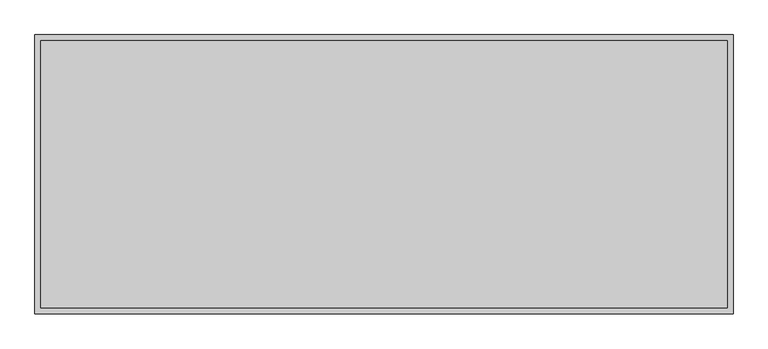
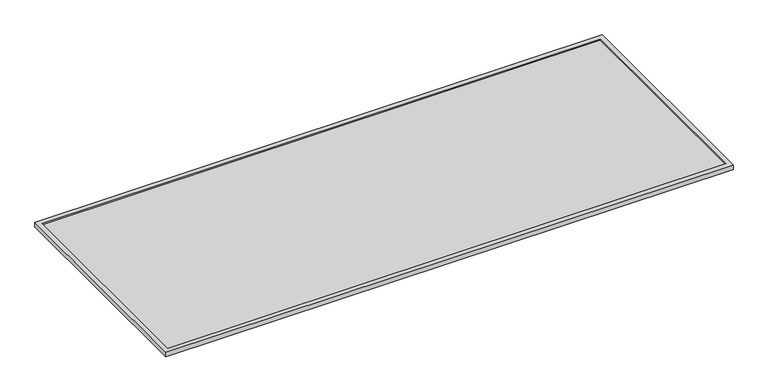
"""IFC4 building model written with IfcOpenShell, lengths in millimetres: proxy geometry, Bradley-Washroom_Accessories-Mirrors-780_Custom (3) : Bradley-Washroom_Accessories-Mirrors-780_Custom (3)."""

import ifcopenshell
import ifcopenshell.guid

model = None  # the IFC model being written
_history = None  # IfcOwnerHistory: only IFC2X3 demands one
_inside = {}  # id of a spatial element -> (the spatial element, [elements in it])
_under = {}  # id of a project, library or spatial element -> (it, [spatial elements below it])
_declared = {}  # id of a project -> (the project, [libraries it declares])
_typed = {}  # id of a type object -> (the type object, [elements of that type])
_made_of = {}  # id of a material, layer set ... -> (it, [elements and type objects made of it])


def new_model(schema):
    """Start an empty IFC model of exactly this schema.

    Asked for "IFC4X3", IfcOpenShell would pick the latest addendum, in which some entities
    have other attributes; the version numbers below select the first issue.
    IFC2X3 requires an IfcOwnerHistory on every rooted entity: one is made here for all.
    """
    global model, _history
    if schema == "IFC4X3":
        model = ifcopenshell.file(schema_version=(4, 3, 0, 0))
    else:
        model = ifcopenshell.file(schema=schema)
    _inside.clear()
    _under.clear()
    _declared.clear()
    _typed.clear()
    _made_of.clear()
    _history = None
    if model.schema == "IFC2X3":
        org = make("IfcOrganization", Name="unknown")
        user = make(
            "IfcPersonAndOrganization",
            ThePerson=make("IfcPerson", FamilyName="unknown"),
            TheOrganization=org,
        )
        app = make(
            "IfcApplication",
            ApplicationDeveloper=org,
            Version="unknown",
            ApplicationFullName="unknown",
            ApplicationIdentifier="unknown",
        )
        _history = make(
            "IfcOwnerHistory",
            OwningUser=user,
            OwningApplication=app,
            ChangeAction="ADDED",
            CreationDate=0,
        )
    return model


def make(cls, **values):
    """One entity of the class cls with the attributes given. An attribute that is None is left unset."""
    return model.create_entity(
        cls, **{name: value for name, value in values.items() if value is not None}
    )


def rooted(cls, **values):
    """An entity with a GlobalId (a new one), such as an element, a storey or a relation."""
    return make(cls, GlobalId=ifcopenshell.guid.new(), OwnerHistory=_history, **values)


def si_unit(unit_type, name, prefix=None):
    """IfcSIUnit, for example si_unit("LENGTHUNIT", "METRE", prefix="MILLI")."""
    return make("IfcSIUnit", UnitType=unit_type, Prefix=prefix, Name=name)


def assignment(units):
    """IfcUnitAssignment: the units of a project."""
    return None if units is None else make("IfcUnitAssignment", Units=units)


def point(xyz):
    """IfcCartesianPoint."""
    return None if xyz is None else make("IfcCartesianPoint", Coordinates=xyz)


def direction(xyz):
    """IfcDirection."""
    return None if xyz is None else make("IfcDirection", DirectionRatios=xyz)


def frame(location, z_axis=None, x_axis=None):
    """IfcAxis2Placement3D, a coordinate frame: its origin and axes. An axis left out is left unset."""
    return make(
        "IfcAxis2Placement3D",
        Location=point(location),
        Axis=direction(z_axis),
        RefDirection=direction(x_axis),
    )


def origin():
    """The frame at (0, 0, 0) with its axes left unset."""
    return frame((0.0, 0.0, 0.0))


def place(relative_to, where):
    """IfcLocalPlacement: puts the frame where relative to a parent placement (None: the world)."""
    return make(
        "IfcLocalPlacement", PlacementRelTo=relative_to, RelativePlacement=where
    )


def context(
    kind, dimensions, precision=None, world=None, true_north=None, identifier=None
):
    """IfcGeometricRepresentationContext, for example the 3D "Model" context."""
    return make(
        "IfcGeometricRepresentationContext",
        ContextIdentifier=identifier,
        ContextType=kind,
        CoordinateSpaceDimension=dimensions,
        Precision=precision,
        WorldCoordinateSystem=world,
        TrueNorth=true_north,
    )


def project(units=None, contexts=None):
    """IfcProject with its units and contexts."""
    return rooted(
        "IfcProject",
        Name="project",
        RepresentationContexts=contexts,
        UnitsInContext=assignment(units),
    )


def spatial(cls, under=None, at=None, **own):
    """A site, building, storey or space (cls), placed at a placement, below another one or the project."""
    s = rooted(cls, ObjectPlacement=at, **own)
    if under is not None:
        _under.setdefault(under.id(), (under, []))[1].append(s)
    return s


def polyline(points):
    """IfcPolyline through the points."""
    return make("IfcPolyline", Points=[point(p) for p in points])


def outline(outer, holes=None, kind="AREA"):
    """IfcArbitraryClosedProfileDef: a profile drawn as a closed curve; with holes, ...WithVoids."""
    if holes is None:
        return make("IfcArbitraryClosedProfileDef", ProfileType=kind, OuterCurve=outer)
    return make(
        "IfcArbitraryProfileDefWithVoids",
        ProfileType=kind,
        OuterCurve=outer,
        InnerCurves=holes,
    )


def extrude(swept, where, along, depth):
    """IfcExtrudedAreaSolid: the profile swept, set in the frame where, extruded along a direction by depth."""
    return make(
        "IfcExtrudedAreaSolid",
        SweptArea=swept,
        Position=where,
        ExtrudedDirection=direction(along),
        Depth=depth,
    )


def faces_of(points, faces, orient=None, outer=None):
    """IfcFace entities. A face is a list of loops; a loop is a list of indices into points, from 0.

    orient and outer hold one flag for each loop. By default every Orientation is true, the
    first loop of a face is its IfcFaceOuterBound and the others are IfcFaceBound.
    """
    made = []
    for i, loops in enumerate(faces):
        bounds = []
        for j, loop in enumerate(loops):
            is_outer = j == 0 if outer is None else outer[i][j]
            bounds.append(
                make(
                    "IfcFaceOuterBound" if is_outer else "IfcFaceBound",
                    Bound=make("IfcPolyLoop", Polygon=[points[k] for k in loop]),
                    Orientation=True if orient is None else orient[i][j],
                )
            )
        made.append(make("IfcFace", Bounds=bounds))
    return made


def faceted_brep(points, faces, orient=None, outer=None, voids=None):
    """IfcFacetedBrep: a solid bounded by flat faces; with voids (closed shells), ...WithVoids."""
    shared = [point(p) for p in points]
    hull = make("IfcClosedShell", CfsFaces=faces_of(shared, faces, orient, outer))
    if voids is None:
        return make("IfcFacetedBrep", Outer=hull)
    return make(
        "IfcFacetedBrepWithVoids",
        Outer=hull,
        Voids=[
            make(cls, CfsFaces=faces_of(shared, fs, o, b)) for cls, fs, o, b in voids
        ],
    )


def shape(context_of_items, identifier, shape_type, items):
    """IfcShapeRepresentation: the items that make up one representation, for example the "Body"."""
    return make(
        "IfcShapeRepresentation",
        ContextOfItems=context_of_items,
        RepresentationIdentifier=identifier,
        RepresentationType=shape_type,
        Items=items,
    )


def source(mapping_origin, context_of_items, identifier, shape_type, items):
    """IfcRepresentationMap: a shape defined once, which mapped items show again and again."""
    return make(
        "IfcRepresentationMap",
        MappingOrigin=mapping_origin,
        MappedRepresentation=shape(context_of_items, identifier, shape_type, items),
    )


def transform(
    local_origin,
    x_axis=None,
    y_axis=None,
    z_axis=None,
    scale=None,
    scale2=None,
    scale3=None,
    uniform=True,
):
    """IfcCartesianTransformationOperator3D, or its non-uniform kind. x_axis, y_axis, z_axis: its Axis1, 2, 3."""
    if uniform:
        return make(
            "IfcCartesianTransformationOperator3D",
            Axis1=direction(x_axis),
            Axis2=direction(y_axis),
            LocalOrigin=point(local_origin),
            Scale=scale,
            Axis3=direction(z_axis),
        )
    return make(
        "IfcCartesianTransformationOperator3DnonUniform",
        Axis1=direction(x_axis),
        Axis2=direction(y_axis),
        LocalOrigin=point(local_origin),
        Scale=scale,
        Axis3=direction(z_axis),
        Scale2=scale2,
        Scale3=scale3,
    )


def mapped(mapping_source, mapping_target):
    """IfcMappedItem: shows the shape of a source again, moved by a transform."""
    return make(
        "IfcMappedItem", MappingSource=mapping_source, MappingTarget=mapping_target
    )


def made_of(thing, what):
    """Note that an element or type object is made of a material, layer set ...; save() writes the relation."""
    if what is not None:
        _made_of.setdefault(what.id(), (what, []))[1].append(thing)
    return thing


def element(
    cls,
    number,
    at=None,
    inside=None,
    cuts=None,
    type_object=None,
    material=None,
    context=None,
    identifier="Body",
    shape_type=None,
    held_by="IfcProductDefinitionShape",
    body=None,
    shapes=None,
    **own,
):
    """One element of the class cls, such as IfcWall. Its Tag is "e" and its number.

    at: its placement. inside: the storey or other place that contains it. cuts: it is an
    opening in that element (IfcRelVoidsElement). A single representation is given by context,
    identifier, shape_type and body (its items); several are given by shapes. held_by: the class
    of the entity that holds the representations. save() writes the other relations.
    """
    e = rooted(cls, Tag="e%d" % number, ObjectPlacement=at, **own)
    if body is not None:
        shapes = [shape(context, identifier, shape_type, body)]
    if shapes is not None:
        e.Representation = make(held_by, Representations=shapes)
    if inside is not None:
        _inside.setdefault(inside.id(), (inside, []))[1].append(e)
    if cuts is not None:
        rooted(
            "IfcRelVoidsElement", RelatingBuildingElement=cuts, RelatedOpeningElement=e
        )
    if type_object is not None:
        _typed.setdefault(type_object.id(), (type_object, []))[1].append(e)
    return made_of(e, material)


def aggregate(whole, parts):
    """IfcRelAggregates: a whole, such as a stair, and the parts it consists of."""
    return rooted("IfcRelAggregates", RelatingObject=whole, RelatedObjects=parts)


def save(model, path):
    """Write the relations noted so far, then the file.

    IfcRelAggregates (storeys below a building ...), IfcRelContainedInSpatialStructure (elements
    in a storey), IfcRelDefinesByType, IfcRelAssociatesMaterial and IfcRelDeclares: one each for
    every whole, place, type object, material and project.
    """
    for whole, parts in _under.values():
        aggregate(whole, parts)
    for where, things in _inside.values():
        rooted(
            "IfcRelContainedInSpatialStructure",
            RelatedElements=things,
            RelatingStructure=where,
        )
    for kind, things in _typed.values():
        rooted("IfcRelDefinesByType", RelatedObjects=things, RelatingType=kind)
    for what, things in _made_of.values():
        rooted("IfcRelAssociatesMaterial", RelatedObjects=things, RelatingMaterial=what)
    for by, libraries in _declared.values():
        rooted("IfcRelDeclares", RelatingContext=by, RelatedDefinitions=libraries)
    model.write(path)


def specialty_equipment_3f77c257(model_context):
    return source(origin(), model_context, "Body", "SolidModel", [
        extrude(outline(polyline([(1123.95, 438.15), (1123.95, -438.15), (-1123.95, -438.15), (-1123.95, 438.15), (1123.95, 438.15)])), frame((0.0, 0.0, 9.525), z_axis=(0.0, 0.0, 1.0), x_axis=(1.0, 0.0, 0.0)), (0.0, 0.0, 1.0), 4.7625),
        faceted_brep([(1143.0, 457.2, 19.05), (-1143.0, 457.2, 19.05), (-1143.0, -457.2, 19.05), (1143.0, -457.2, 19.05), (-1123.95, 438.15, 19.05), (1123.95, 438.15, 19.05), (1123.95, -438.15, 19.05), (-1123.95, -438.15, 19.05), (1143.0, 457.2, 0.0), (1143.0, -457.2, 0.0), (-1143.0, -457.2, 0.0), (-1143.0, 457.2, 0.0), (1123.95, 438.15, 9.525), (-1123.95, 438.15, 9.525), (-1123.95, -438.15, 9.525), (1123.95, -438.15, 9.525)], [[[0, 1, 2, 3], [4, 5, 6, 7]], [[8, 9, 10, 11]], [[1, 0, 8, 11]], [[2, 1, 11, 10]], [[3, 2, 10, 9]], [[0, 3, 9, 8]], [[12, 13, 14, 15]], [[13, 12, 5, 4]], [[14, 13, 4, 7]], [[15, 14, 7, 6]], [[12, 15, 6, 5]]]),
    ])


if __name__ == "__main__":
    model = new_model("IFC4")
    model_context = context("Model", 3, world=origin())
    ifc_project = project(units=[si_unit("LENGTHUNIT", "METRE", prefix="MILLI")], contexts=[model_context])
    site = spatial("IfcSite", under=ifc_project)
    building = spatial("IfcBuilding", under=site)
    placement = place(None, origin())
    specialty_equipment_shape = specialty_equipment_3f77c257(model_context)
    element("IfcBuildingElementProxy", 1, Name="Bradley-Washroom_Accessories-Mirrors-780_Custom (3) : Bradley-Washroom_Accessories-Mirrors-780_Custom (3)", ObjectType="Bradley-Washroom_Accessories-Mirrors-780_Custom (3) : Bradley-Washroom_Accessories-Mirrors-780_Custom (3)", at=placement, inside=building, context=model_context, shape_type="MappedRepresentation", body=[
        mapped(specialty_equipment_shape, transform((0.0, 0.0, 0.0), x_axis=(1.0, 0.0, 0.0), y_axis=(0.0, 1.0, 0.0), z_axis=(0.0, 0.0, 1.0))),
    ])
    save(model, "model.ifc")
